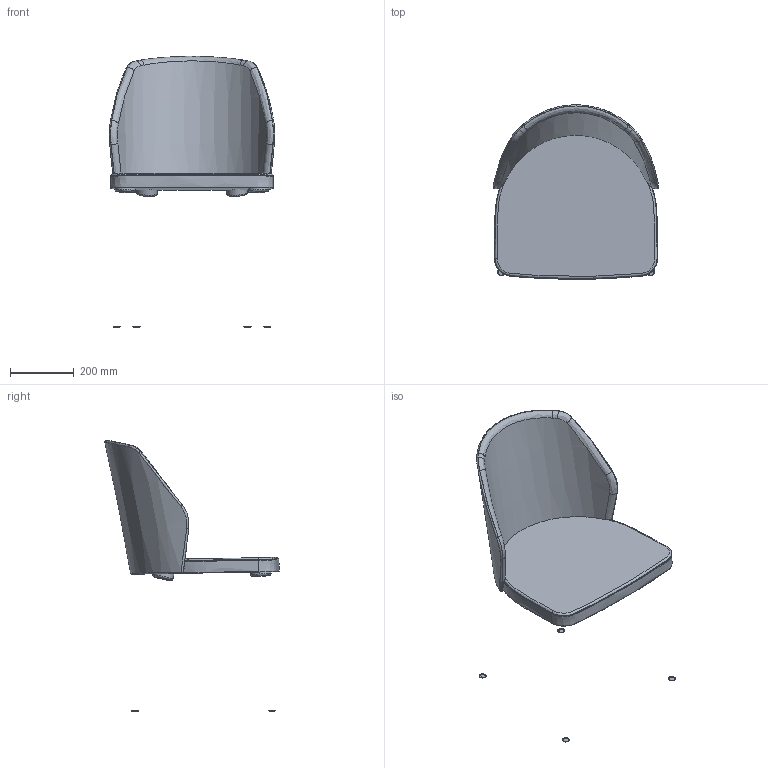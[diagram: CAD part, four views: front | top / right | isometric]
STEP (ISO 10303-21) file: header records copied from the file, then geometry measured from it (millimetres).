
FILE_DESCRIPTION(/* description */ (''),/* implementation_level */ '2;1');
FILE_NAME(/* name */ 'C:\Users\GG\Desktop\Baza do pcon.stp',/* time_stamp */ '2021-05-10T13:12:59+02:00',/* author */ ('GG'),/* organization */ (''),/* preprocessor_version */ 'ST-DEVELOPER v18',/* originating_system */ 'Autodesk Inventor 2020',/* authorisation */ '');
FILE_SCHEMA (('AUTOMOTIVE_DESIGN { 1 0 10303 214 3 1 1 }'));
Length unit declared in the file: millimetre
Products named in the file (1): Baza do pcon
Bounding box: 519.12 x 547.71 x 852.36 mm (x, y, z)
Volume: 16274562.5 mm3; surface area: 1580882.2 mm2
Topology: 9 solids, 9 shells, 100 faces, 215 edges, 133 vertices
Faces by surface type: bspline 60, plane 20, cone 12, torus 4, cylinder 4
Full cylindrical faces by diameter (mm): 64 x4
Entity records: 14799 total; most frequent: CARTESIAN_POINT 12917, ORIENTED_EDGE 430, DIRECTION 251, EDGE_CURVE 215, VERTEX_POINT 133, B_SPLINE_CURVE_WITH_KNOTS 117, AXIS2_PLACEMENT_3D 112, EDGE_LOOP 108
